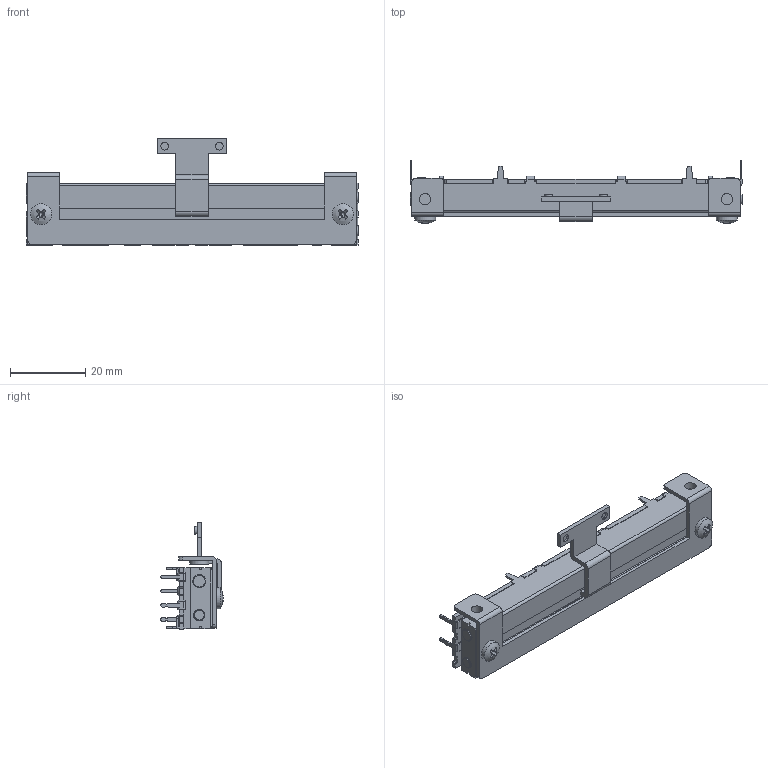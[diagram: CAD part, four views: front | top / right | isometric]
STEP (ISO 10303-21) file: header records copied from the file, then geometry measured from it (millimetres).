
FILE_DESCRIPTION(('FreeCAD Model'),'2;1');
FILE_NAME('Open CASCADE Shape Model','2026-03-31T07:39:42',(''),(''), 'Open CASCADE STEP processor 7.8','FreeCAD','Unknown');
FILE_SCHEMA(('AUTOMOTIVE_DESIGN { 1 0 10303 214 1 1 1 1 }'));
Length unit declared in the file: millimetre
Products named in the file (1): 2DSVH-610X
Bounding box: 88 x 16.55 x 28.25 mm (x, y, z)
Volume: 13352.4 mm3; surface area: 7301.7 mm2
Topology: 2 solids, 12 shells, 695 faces, 1895 edges, 1236 vertices
Faces by surface type: plane 485, cylinder 184, cone 18, torus 6, sphere 2
Full cylindrical faces by diameter (mm): 0.5 x6, 1.5 x6, 1.7 x8, 2 x4, 2.5 x2, 3 x7, 3.2 x2, 3.5 x1, 4 x2, 5 x2, 5.6 x2
Entity records: 25092 total; most frequent: CARTESIAN_POINT 3837, DIRECTION 3793, ORIENTED_EDGE 3786, EDGE_CURVE 1893, LINE 1361, VECTOR 1361, VERTEX_POINT 1236, AXIS2_PLACEMENT_3D 1216
